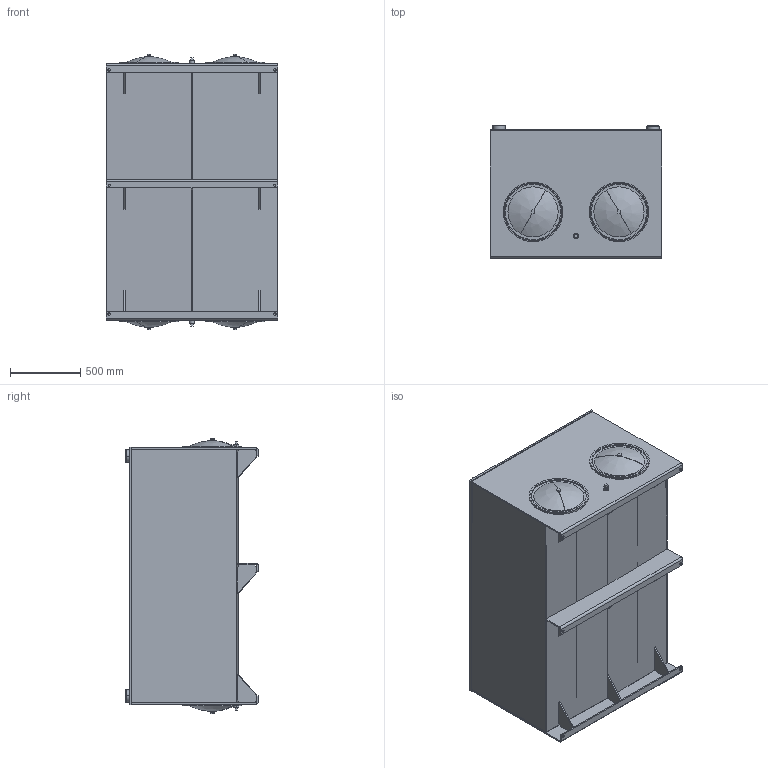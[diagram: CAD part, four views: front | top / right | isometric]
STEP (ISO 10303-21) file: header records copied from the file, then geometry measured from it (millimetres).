
FILE_DESCRIPTION (( 'STEP AP214' ), '1' );
FILE_NAME ('TJ-400-ASSEMBLY.STEP', '2026-04-22T13:36:34', ( '' ), ( '' ), 'SwSTEP 2.0', 'SolidWorks 2026', '' );
FILE_SCHEMA (( 'AUTOMOTIVE_DESIGN' ));
Length unit declared in the file: inch
Products named in the file (19): 0.750 NPT HALF COUPLING 3000#; FILLER RISER; 16.00 END COVER; CRUSH WASHER; 0.625 - 11 BAFFLE NUT; TJ-400-BDYA; 0.750 NPT PLUG; TJ-400-ASSEMBLY; TJ-400-EB; TJ-400-EA; TJ-400-BFL; TJ-400-GST-2; 16.00 GASKET; TJ-400-LD; TJ-400-FS; 16.00 END COVER ASSEMBLY; 0.625 - 11 HEX BOLT; TJ-400-BDYB; TJ-400-GST-1
Assembly tree (33 placements, depth 3):
  TJ-400-ASSEMBLY
    TJ-400-BDYB  x2
    TJ-400-BDYA
    TJ-400-EA
    TJ-400-EB
    TJ-400-BFL  x2
    16.00 END COVER ASSEMBLY  x4
      16.00 END COVER
      16.00 GASKET
      CRUSH WASHER
      0.625 - 11 HEX BOLT
      0.625 - 11 BAFFLE NUT
    TJ-400-LD
    TJ-400-FS
    TJ-400-GST-1  x6
    TJ-400-GST-2  x3
    0.750 NPT HALF COUPLING 3000#  x2
    0.750 NPT PLUG  x2
    FILLER RISER  x2
Bounding box: 1219.2 x 939.67 x 1950.7 mm (x, y, z)
Volume: 88745014.8 mm3; surface area: 25927153.7 mm2
Topology: 44 solids, 44 shells, 520 faces, 1210 edges, 792 vertices
Faces by surface type: plane 295, cylinder 193, bspline 16, cone 12, torus 4
Entity records: 7950 total; most frequent: DIRECTION 1337, CARTESIAN_POINT 1284, ORIENTED_EDGE 1146, EDGE_CURVE 573, AXIS2_PLACEMENT_3D 493, VERTEX_POINT 370, LINE 351, VECTOR 351
